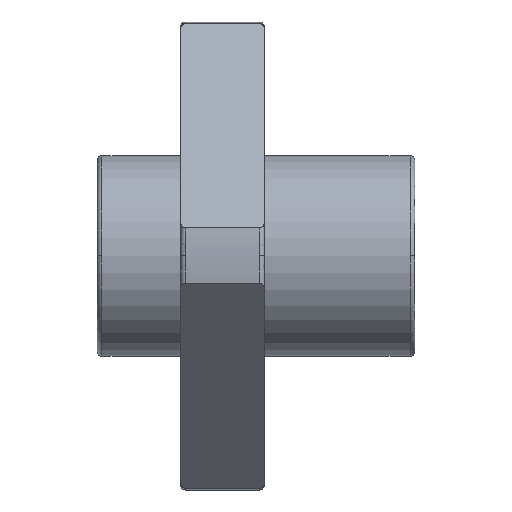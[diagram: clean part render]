
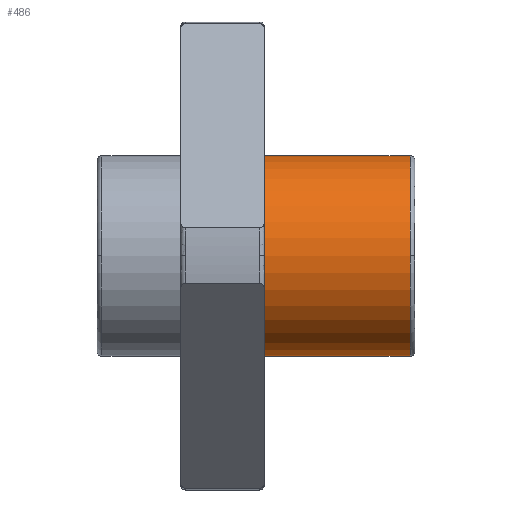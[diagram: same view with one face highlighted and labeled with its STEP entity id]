
A CAD part, top view. The second image highlights one B-rep face of the part: STEP entity #486.
In plain terms, the highlighted cylindrical face has radius 6 mm (diameter 12 mm), a partial arc.
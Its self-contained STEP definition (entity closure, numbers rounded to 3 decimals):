
#335 = TOROIDAL_SURFACE('',#336,5.72,0.28);
#336 = AXIS2_PLACEMENT_3D('',#337,#338,#339);
#337 = CARTESIAN_POINT('',(18.72,0.,0.));
#338 = DIRECTION('',(1.,0.,0.));
#339 = DIRECTION('',(0.,0.,-1.));
#347 = TOROIDAL_SURFACE('',#348,5.72,0.28);
#348 = AXIS2_PLACEMENT_3D('',#349,#350,#351);
#349 = CARTESIAN_POINT('',(18.72,0.,0.));
#350 = DIRECTION('',(1.,0.,0.));
#351 = DIRECTION('',(0.,0.,-1.));
#360 = VERTEX_POINT('',#361);
#361 = CARTESIAN_POINT('',(18.72,6.,0.));
#376 = CYLINDRICAL_SURFACE('',#377,6.);
#377 = AXIS2_PLACEMENT_3D('',#378,#379,#380);
#378 = CARTESIAN_POINT('',(14.36,0.,0.));
#379 = DIRECTION('',(1.,0.,0.));
#380 = DIRECTION('',(-0.,1.,0.));
#388 = EDGE_CURVE('',#360,#389,#391,.T.);
#389 = VERTEX_POINT('',#390);
#390 = CARTESIAN_POINT('',(18.72,0.,6.));
#391 = SURFACE_CURVE('',#392,(#397,#404),.PCURVE_S1.);
#392 = CIRCLE('',#393,6.);
#393 = AXIS2_PLACEMENT_3D('',#394,#395,#396);
#394 = CARTESIAN_POINT('',(18.72,0.,0.));
#395 = DIRECTION('',(1.,0.,0.));
#396 = DIRECTION('',(-0.,1.,0.));
#397 = PCURVE('',#335,#398);
#398 = DEFINITIONAL_REPRESENTATION('',(#399),#403);
#399 = LINE('',#400,#401);
#400 = CARTESIAN_POINT('',(1.571,0.));
#401 = VECTOR('',#402,1.);
#402 = DIRECTION('',(1.,0.));
#403 = ( GEOMETRIC_REPRESENTATION_CONTEXT(2) 
PARAMETRIC_REPRESENTATION_CONTEXT() REPRESENTATION_CONTEXT('2D SPACE',''
  ) );
#404 = PCURVE('',#405,#410);
#405 = CYLINDRICAL_SURFACE('',#406,6.);
#406 = AXIS2_PLACEMENT_3D('',#407,#408,#409);
#407 = CARTESIAN_POINT('',(14.36,0.,0.));
#408 = DIRECTION('',(1.,0.,0.));
#409 = DIRECTION('',(-0.,1.,0.));
#410 = DEFINITIONAL_REPRESENTATION('',(#411),#415);
#411 = LINE('',#412,#413);
#412 = CARTESIAN_POINT('',(0.,4.36));
#413 = VECTOR('',#414,1.);
#414 = DIRECTION('',(1.,0.));
#415 = ( GEOMETRIC_REPRESENTATION_CONTEXT(2) 
PARAMETRIC_REPRESENTATION_CONTEXT() REPRESENTATION_CONTEXT('2D SPACE',''
  ) );
#486 = ADVANCED_FACE('',(#487),#405,.T.);
#487 = FACE_BOUND('',#488,.T.);
#488 = EDGE_LOOP('',(#489,#512,#541,#564,#586));
#489 = ORIENTED_EDGE('',*,*,#490,.F.);
#490 = EDGE_CURVE('',#491,#360,#493,.T.);
#491 = VERTEX_POINT('',#492);
#492 = CARTESIAN_POINT('',(10.,6.,0.));
#493 = SURFACE_CURVE('',#494,(#498,#505),.PCURVE_S1.);
#494 = LINE('',#495,#496);
#495 = CARTESIAN_POINT('',(14.36,6.,0.));
#496 = VECTOR('',#497,1.);
#497 = DIRECTION('',(1.,0.,0.));
#498 = PCURVE('',#405,#499);
#499 = DEFINITIONAL_REPRESENTATION('',(#500),#504);
#500 = LINE('',#501,#502);
#501 = CARTESIAN_POINT('',(0.,0.));
#502 = VECTOR('',#503,1.);
#503 = DIRECTION('',(0.,1.));
#504 = ( GEOMETRIC_REPRESENTATION_CONTEXT(2) 
PARAMETRIC_REPRESENTATION_CONTEXT() REPRESENTATION_CONTEXT('2D SPACE',''
  ) );
#505 = PCURVE('',#376,#506);
#506 = DEFINITIONAL_REPRESENTATION('',(#507),#511);
#507 = LINE('',#508,#509);
#508 = CARTESIAN_POINT('',(6.283,0.));
#509 = VECTOR('',#510,1.);
#510 = DIRECTION('',(0.,1.));
#511 = ( GEOMETRIC_REPRESENTATION_CONTEXT(2) 
PARAMETRIC_REPRESENTATION_CONTEXT() REPRESENTATION_CONTEXT('2D SPACE',''
  ) );
#512 = ORIENTED_EDGE('',*,*,#513,.T.);
#513 = EDGE_CURVE('',#491,#514,#516,.T.);
#514 = VERTEX_POINT('',#515);
#515 = CARTESIAN_POINT('',(10.,-6.,0.));
#516 = SURFACE_CURVE('',#517,(#522,#529),.PCURVE_S1.);
#517 = CIRCLE('',#518,6.);
#518 = AXIS2_PLACEMENT_3D('',#519,#520,#521);
#519 = CARTESIAN_POINT('',(10.,0.,0.));
#520 = DIRECTION('',(1.,0.,0.));
#521 = DIRECTION('',(-0.,1.,0.));
#522 = PCURVE('',#405,#523);
#523 = DEFINITIONAL_REPRESENTATION('',(#524),#528);
#524 = LINE('',#525,#526);
#525 = CARTESIAN_POINT('',(0.,-4.36));
#526 = VECTOR('',#527,1.);
#527 = DIRECTION('',(1.,0.));
#528 = ( GEOMETRIC_REPRESENTATION_CONTEXT(2) 
PARAMETRIC_REPRESENTATION_CONTEXT() REPRESENTATION_CONTEXT('2D SPACE',''
  ) );
#529 = PCURVE('',#530,#535);
#530 = PLANE('',#531);
#531 = AXIS2_PLACEMENT_3D('',#532,#533,#534);
#532 = CARTESIAN_POINT('',(10.,9.86,0.));
#533 = DIRECTION('',(1.,0.,0.));
#534 = DIRECTION('',(0.,1.,0.));
#535 = DEFINITIONAL_REPRESENTATION('',(#536),#540);
#536 = CIRCLE('',#537,6.);
#537 = AXIS2_PLACEMENT_2D('',#538,#539);
#538 = CARTESIAN_POINT('',(-9.86,0.));
#539 = DIRECTION('',(1.,0.));
#540 = ( GEOMETRIC_REPRESENTATION_CONTEXT(2) 
PARAMETRIC_REPRESENTATION_CONTEXT() REPRESENTATION_CONTEXT('2D SPACE',''
  ) );
#541 = ORIENTED_EDGE('',*,*,#542,.F.);
#542 = EDGE_CURVE('',#543,#514,#545,.T.);
#543 = VERTEX_POINT('',#544);
#544 = CARTESIAN_POINT('',(18.72,-6.,0.));
#545 = SURFACE_CURVE('',#546,(#550,#557),.PCURVE_S1.);
#546 = LINE('',#547,#548);
#547 = CARTESIAN_POINT('',(14.36,-6.,0.));
#548 = VECTOR('',#549,1.);
#549 = DIRECTION('',(-1.,-0.,-0.));
#550 = PCURVE('',#405,#551);
#551 = DEFINITIONAL_REPRESENTATION('',(#552),#556);
#552 = LINE('',#553,#554);
#553 = CARTESIAN_POINT('',(3.142,0.));
#554 = VECTOR('',#555,1.);
#555 = DIRECTION('',(0.,-1.));
#556 = ( GEOMETRIC_REPRESENTATION_CONTEXT(2) 
PARAMETRIC_REPRESENTATION_CONTEXT() REPRESENTATION_CONTEXT('2D SPACE',''
  ) );
#557 = PCURVE('',#376,#558);
#558 = DEFINITIONAL_REPRESENTATION('',(#559),#563);
#559 = LINE('',#560,#561);
#560 = CARTESIAN_POINT('',(3.142,0.));
#561 = VECTOR('',#562,1.);
#562 = DIRECTION('',(0.,-1.));
#563 = ( GEOMETRIC_REPRESENTATION_CONTEXT(2) 
PARAMETRIC_REPRESENTATION_CONTEXT() REPRESENTATION_CONTEXT('2D SPACE',''
  ) );
#564 = ORIENTED_EDGE('',*,*,#565,.F.);
#565 = EDGE_CURVE('',#389,#543,#566,.T.);
#566 = SURFACE_CURVE('',#567,(#572,#579),.PCURVE_S1.);
#567 = CIRCLE('',#568,6.);
#568 = AXIS2_PLACEMENT_3D('',#569,#570,#571);
#569 = CARTESIAN_POINT('',(18.72,0.,0.));
#570 = DIRECTION('',(1.,0.,0.));
#571 = DIRECTION('',(-0.,1.,0.));
#572 = PCURVE('',#405,#573);
#573 = DEFINITIONAL_REPRESENTATION('',(#574),#578);
#574 = LINE('',#575,#576);
#575 = CARTESIAN_POINT('',(0.,4.36));
#576 = VECTOR('',#577,1.);
#577 = DIRECTION('',(1.,0.));
#578 = ( GEOMETRIC_REPRESENTATION_CONTEXT(2) 
PARAMETRIC_REPRESENTATION_CONTEXT() REPRESENTATION_CONTEXT('2D SPACE',''
  ) );
#579 = PCURVE('',#347,#580);
#580 = DEFINITIONAL_REPRESENTATION('',(#581),#585);
#581 = LINE('',#582,#583);
#582 = CARTESIAN_POINT('',(1.571,0.));
#583 = VECTOR('',#584,1.);
#584 = DIRECTION('',(1.,0.));
#585 = ( GEOMETRIC_REPRESENTATION_CONTEXT(2) 
PARAMETRIC_REPRESENTATION_CONTEXT() REPRESENTATION_CONTEXT('2D SPACE',''
  ) );
#586 = ORIENTED_EDGE('',*,*,#388,.F.);
